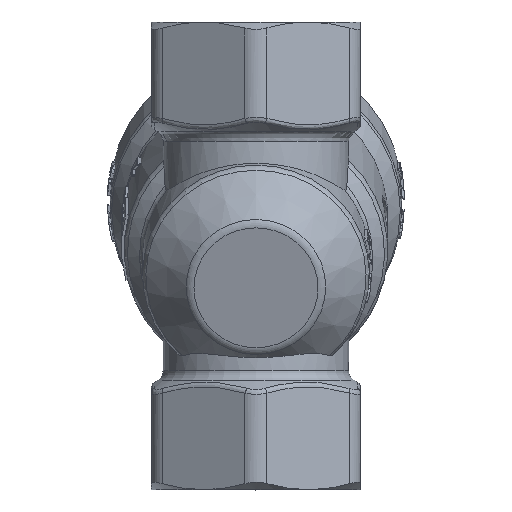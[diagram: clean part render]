
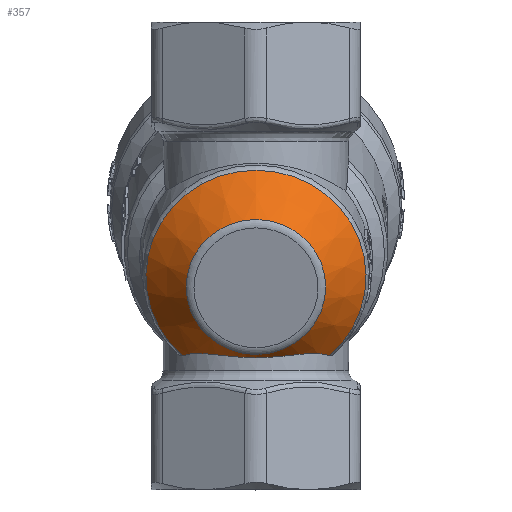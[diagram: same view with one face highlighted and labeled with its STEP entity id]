
A CAD part, top view. The second image highlights one B-rep face of the part: STEP entity #357.
In plain terms, the highlighted conical face has half-angle 45 degrees and reference radius 16.35 mm.
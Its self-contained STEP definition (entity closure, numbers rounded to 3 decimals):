
#357=ADVANCED_FACE('',(#3139,#3141),#3143,.T.);
#3139=FACE_BOUND('',#3140,.T.);
#3140=EDGE_LOOP('',(#8986,#8987,#8988));
#3141=FACE_OUTER_BOUND('',#3142,.T.);
#3142=EDGE_LOOP('',(#8989));
#3143=CONICAL_SURFACE('',#3144,16.35,0.785);
#3144=AXIS2_PLACEMENT_3D('',#3145,#3146,#3147);
#3145=CARTESIAN_POINT('',(0.,-4.723,17.628));
#3146=DIRECTION('',(0.,0.259,-0.966));
#3147=DIRECTION('',(0.,-0.966,-0.259));
#8986=ORIENTED_EDGE('',*,*,#12248,.T.);
#8987=ORIENTED_EDGE('',*,*,#12247,.T.);
#8988=ORIENTED_EDGE('',*,*,#12002,.T.);
#8989=ORIENTED_EDGE('',*,*,#12249,.F.);
#12002=EDGE_CURVE('',#14451,#14449,#14452,.T.);
#12247=EDGE_CURVE('',#14868,#14451,#14869,.T.);
#12248=EDGE_CURVE('',#14449,#14868,#14870,.T.);
#12249=EDGE_CURVE('',#14871,#14871,#14872,.T.);
#14449=VERTEX_POINT('',#25627);
#14451=VERTEX_POINT('',#25663);
#14452=B_SPLINE_CURVE_WITH_KNOTS('',3,
(#25664,#25665,#25666,#25667,#25668,#25669,#25670,#25671,#25672,#25673,#25674,#25675,
#25676,#25677,#25678,#25679,#25680,#25681,#25682,#25683,#25684,#25685,#25686,#25687,
#25688,#25689,#25690,#25691,#25692,#25693,#25694,#25695,#25696,#25697,#25698,#25699,
#25700,#25701,#25702,#25703,#25704,#25705,#25706,#25707,#25708,#25709,#25710,#25711,
#25712,#25713,#25714,#25715,#25716,#25717,#25718,#25719,#25720,#25721,#25722,#25723,
#25724,#25725,#25726,#25727,#25728,#25729,#25730,#25731,#25732,#25733,#25734,#25735,
#25736,#25737,#25738,#25739,#25740,#25741),
.UNSPECIFIED.,.F.,.F.,
(4,1,1,1,1,1,1,1,1,1,1,1,1,1,1,1,1,1,1,1,1,1,1,1,1,1,1,1,1,1,1,1,1,1,1,1,1,1,1,1,
1,1,1,1,1,1,1,1,1,1,1,1,1,1,1,1,1,1,1,1,1,1,1,1,1,1,1,1,1,1,1,1,1,1,1,4),
(0.,0.012,0.023,0.035,0.046,0.058,
0.07,0.082,0.094,0.106,0.118,
0.13,0.133,0.142,0.154,0.166,
0.179,0.196,0.213,0.23,0.243,
0.257,0.277,0.308,0.342,0.372,
0.393,0.412,0.429,0.444,0.457,
0.47,0.485,0.5,0.501,0.517,
0.534,0.55,0.566,0.585,0.602,
0.618,0.63,0.642,0.655,0.667,
0.679,0.691,0.706,0.722,0.738,
0.749,0.761,0.776,0.792,0.808,
0.819,0.831,0.842,0.854,0.867,
0.87,0.891,0.912,0.928,0.938,
0.946,0.953,0.959,0.966,0.972,
0.978,0.984,0.989,0.995,1.),
.UNSPECIFIED.);
#14868=VERTEX_POINT('',#28645);
#14869=CIRCLE('',#28646,20.014);
#14870=CIRCLE('',#28650,20.014);
#14871=VERTEX_POINT('',#28654);
#14872=CIRCLE('',#28655,12.686);
#25627=CARTESIAN_POINT('',(13.384,-18.149,10.237));
#25663=CARTESIAN_POINT('',(-13.384,-18.149,10.237));
#25664=CARTESIAN_POINT('',(-13.384,-18.149,10.237));
#25665=CARTESIAN_POINT('',(-13.312,-18.124,10.33));
#25666=CARTESIAN_POINT('',(-13.168,-18.077,10.516));
#25667=CARTESIAN_POINT('',(-12.944,-18.012,10.79));
#25668=CARTESIAN_POINT('',(-12.712,-17.954,11.062));
#25669=CARTESIAN_POINT('',(-12.473,-17.904,11.331));
#25670=CARTESIAN_POINT('',(-12.227,-17.86,11.596));
#25671=CARTESIAN_POINT('',(-11.973,-17.823,11.858));
#25672=CARTESIAN_POINT('',(-11.713,-17.793,12.115));
#25673=CARTESIAN_POINT('',(-11.446,-17.77,12.368));
#25674=CARTESIAN_POINT('',(-11.172,-17.753,12.615));
#25675=CARTESIAN_POINT('',(-10.892,-17.742,12.858));
#25676=CARTESIAN_POINT('',(-10.675,-17.739,13.038));
#25677=CARTESIAN_POINT('',(-10.48,-17.738,13.195));
#25678=CARTESIAN_POINT('',(-10.281,-17.74,13.351));
#25679=CARTESIAN_POINT('',(-10.003,-17.746,13.561));
#25680=CARTESIAN_POINT('',(-9.691,-17.759,13.786));
#25681=CARTESIAN_POINT('',(-9.334,-17.779,14.031));
#25682=CARTESIAN_POINT('',(-8.929,-17.807,14.293));
#25683=CARTESIAN_POINT('',(-8.475,-17.846,14.567));
#25684=CARTESIAN_POINT('',(-8.047,-17.887,14.807));
#25685=CARTESIAN_POINT('',(-7.649,-17.929,15.016));
#25686=CARTESIAN_POINT('',(-7.216,-17.976,15.23));
#25687=CARTESIAN_POINT('',(-6.61,-18.045,15.506));
#25688=CARTESIAN_POINT('',(-5.792,-18.139,15.834));
#25689=CARTESIAN_POINT('',(-4.867,-18.242,16.142));
#25690=CARTESIAN_POINT('',(-4.026,-18.325,16.368));
#25691=CARTESIAN_POINT('',(-3.321,-18.385,16.523));
#25692=CARTESIAN_POINT('',(-2.743,-18.428,16.628));
#25693=CARTESIAN_POINT('',(-2.222,-18.46,16.705));
#25694=CARTESIAN_POINT('',(-1.76,-18.483,16.76));
#25695=CARTESIAN_POINT('',(-1.33,-18.5,16.799));
#25696=CARTESIAN_POINT('',(-0.904,-18.513,16.828));
#25697=CARTESIAN_POINT('',(-0.461,-18.521,16.846));
#25698=CARTESIAN_POINT('',(-0.148,-18.522,16.85));
#25699=CARTESIAN_POINT('',(0.187,-18.522,16.85));
#25700=CARTESIAN_POINT('',(0.539,-18.52,16.844));
#25701=CARTESIAN_POINT('',(1.053,-18.509,16.82));
#25702=CARTESIAN_POINT('',(1.559,-18.492,16.78));
#25703=CARTESIAN_POINT('',(2.084,-18.468,16.724));
#25704=CARTESIAN_POINT('',(2.616,-18.436,16.649));
#25705=CARTESIAN_POINT('',(3.143,-18.399,16.557));
#25706=CARTESIAN_POINT('',(3.6,-18.362,16.463));
#25707=CARTESIAN_POINT('',(4.002,-18.326,16.369));
#25708=CARTESIAN_POINT('',(4.364,-18.291,16.276));
#25709=CARTESIAN_POINT('',(4.724,-18.255,16.176));
#25710=CARTESIAN_POINT('',(5.081,-18.217,16.067));
#25711=CARTESIAN_POINT('',(5.434,-18.179,15.951));
#25712=CARTESIAN_POINT('',(5.821,-18.135,15.815));
#25713=CARTESIAN_POINT('',(6.239,-18.088,15.655));
#25714=CARTESIAN_POINT('',(6.686,-18.036,15.469));
#25715=CARTESIAN_POINT('',(7.089,-17.99,15.288));
#25716=CARTESIAN_POINT('',(7.449,-17.95,15.116));
#25717=CARTESIAN_POINT('',(7.804,-17.912,14.936));
#25718=CARTESIAN_POINT('',(8.192,-17.873,14.727));
#25719=CARTESIAN_POINT('',(8.61,-17.834,14.487));
#25720=CARTESIAN_POINT('',(8.988,-17.803,14.255));
#25721=CARTESIAN_POINT('',(9.327,-17.779,14.035));
#25722=CARTESIAN_POINT('',(9.624,-17.762,13.832));
#25723=CARTESIAN_POINT('',(9.915,-17.749,13.626));
#25724=CARTESIAN_POINT('',(10.216,-17.741,13.402));
#25725=CARTESIAN_POINT('',(10.444,-17.738,13.224));
#25726=CARTESIAN_POINT('',(10.747,-17.739,12.98));
#25727=CARTESIAN_POINT('',(11.104,-17.747,12.679));
#25728=CARTESIAN_POINT('',(11.546,-17.776,12.277));
#25729=CARTESIAN_POINT('',(11.888,-17.812,11.943));
#25730=CARTESIAN_POINT('',(12.131,-17.846,11.696));
#25731=CARTESIAN_POINT('',(12.306,-17.874,11.511));
#25732=CARTESIAN_POINT('',(12.457,-17.902,11.347));
#25733=CARTESIAN_POINT('',(12.593,-17.929,11.196));
#25734=CARTESIAN_POINT('',(12.723,-17.958,11.048));
#25735=CARTESIAN_POINT('',(12.846,-17.988,10.905));
#25736=CARTESIAN_POINT('',(12.963,-18.018,10.766));
#25737=CARTESIAN_POINT('',(13.074,-18.05,10.63));
#25738=CARTESIAN_POINT('',(13.181,-18.082,10.497));
#25739=CARTESIAN_POINT('',(13.284,-18.115,10.367));
#25740=CARTESIAN_POINT('',(13.351,-18.138,10.28));
#25741=CARTESIAN_POINT('',(13.384,-18.149,10.237));
#28645=CARTESIAN_POINT('',(0.,15.557,19.269));
#28646=AXIS2_PLACEMENT_3D('',#28647,#28648,#28649);
#28647=CARTESIAN_POINT('',(0.,-3.775,14.089));
#28648=DIRECTION('',(0.,-0.259,0.966));
#28649=DIRECTION('',(0.,0.966,0.259));
#28650=AXIS2_PLACEMENT_3D('',#28651,#28652,#28653);
#28651=CARTESIAN_POINT('',(0.,-3.775,14.089));
#28652=DIRECTION('',(0.,-0.259,0.966));
#28653=DIRECTION('',(0.669,-0.718,-0.192));
#28654=CARTESIAN_POINT('',(0.,6.582,24.451));
#28655=AXIS2_PLACEMENT_3D('',#28656,#28657,#28658);
#28656=CARTESIAN_POINT('',(0.,-5.672,21.168));
#28657=DIRECTION('',(0.,-0.259,0.966));
#28658=DIRECTION('',(0.,0.966,0.259));
